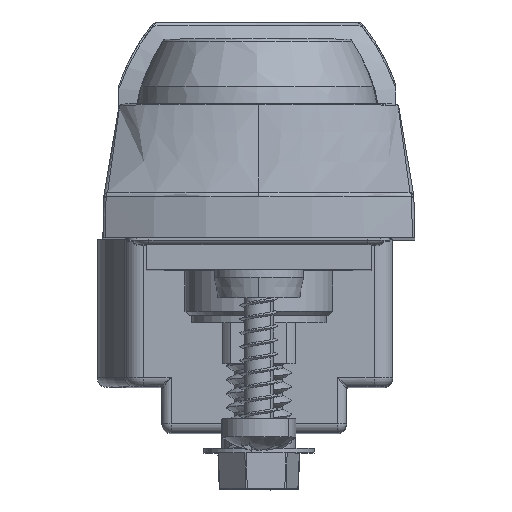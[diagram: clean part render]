
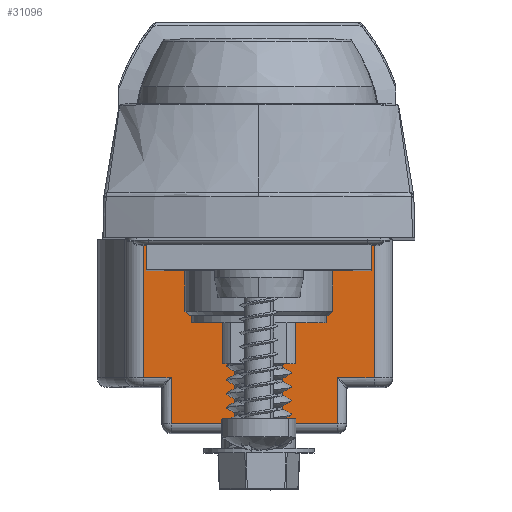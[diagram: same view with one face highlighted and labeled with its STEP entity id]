
A CAD part, top view. The second image highlights one B-rep face of the part: STEP entity #31096.
In plain terms, the highlighted planar face has unit normal (0, 0, 1) as drawn and (-1, 0, 0) by its records, which use the part's own axes.
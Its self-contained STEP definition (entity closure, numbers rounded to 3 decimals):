
#1618 = LINE ( 'NONE', #1668, #1667 ) ;
#1643 = CARTESIAN_POINT ( 'NONE',  ( -77.047, 24.46, 15. ) ) ;
#1666 = DIRECTION ( 'NONE',  ( 0., 0., -1. ) ) ;
#1667 = VECTOR ( 'NONE', #1666, 1000. ) ;
#1668 = CARTESIAN_POINT ( 'NONE',  ( -77.047, 24.46, 16. ) ) ;
#2045 = CARTESIAN_POINT ( 'NONE',  ( -77.047, 20.46, 15. ) ) ;
#2468 = FACE_OUTER_BOUND ( 'NONE', #31127, .T. ) ;
#2855 = CARTESIAN_POINT ( 'NONE',  ( -77.047, -0.54, 0. ) ) ;
#3182 = PLANE ( 'NONE',  #3193 ) ;
#3188 = CARTESIAN_POINT ( 'NONE',  ( -77.047, -0.54, 16. ) ) ;
#3191 = DIRECTION ( 'NONE',  ( 0., 0., -1. ) ) ;
#3192 = DIRECTION ( 'NONE',  ( 1., 0., 0. ) ) ;
#3193 = AXIS2_PLACEMENT_3D ( 'NONE', #3188, #3192, #3191 ) ;
#3239 = CARTESIAN_POINT ( 'NONE',  ( -77.047, 20.46, 20. ) ) ;
#5686 = EDGE_CURVE ( 'NONE', #21719, #27601, #9889, .T. ) ;
#5689 = ORIENTED_EDGE ( 'NONE', *, *, #5686, .F. ) ;
#6506 = VERTEX_POINT ( 'NONE', #11704 ) ;
#6538 = EDGE_CURVE ( 'NONE', #6506, #27601, #11784, .T. ) ;
#7861 = EDGE_CURVE ( 'NONE', #26282, #25908, #17030, .T. ) ;
#7862 = ORIENTED_EDGE ( 'NONE', *, *, #7861, .T. ) ;
#7871 = ORIENTED_EDGE ( 'NONE', *, *, #6538, .T. ) ;
#9248 = EDGE_CURVE ( 'NONE', #21818, #31128, #25005, .T. ) ;
#9501 = ORIENTED_EDGE ( 'NONE', *, *, #25842, .T. ) ;
#9886 = DIRECTION ( 'NONE',  ( 0., 0., -1. ) ) ;
#9887 = VECTOR ( 'NONE', #9886, 1000. ) ;
#9888 = CARTESIAN_POINT ( 'NONE',  ( -77.047, -0.54, 16. ) ) ;
#9889 = LINE ( 'NONE', #9888, #9887 ) ;
#11704 = CARTESIAN_POINT ( 'NONE',  ( -77.047, 24.46, 0. ) ) ;
#11781 = DIRECTION ( 'NONE',  ( 0., -1., 0. ) ) ;
#11782 = VECTOR ( 'NONE', #11781, 1000. ) ;
#11783 = CARTESIAN_POINT ( 'NONE',  ( -77.047, -0.54, 0. ) ) ;
#11784 = LINE ( 'NONE', #11783, #11782 ) ;
#17030 = LINE ( 'NONE', #17057, #17053 ) ;
#17052 = DIRECTION ( 'NONE',  ( 0., 1., 0. ) ) ;
#17053 = VECTOR ( 'NONE', #17052, 1000. ) ;
#17057 = CARTESIAN_POINT ( 'NONE',  ( -77.047, -0.54, 15. ) ) ;
#20945 = EDGE_CURVE ( 'NONE', #31128, #26282, #28669, .T. ) ;
#20952 = ORIENTED_EDGE ( 'NONE', *, *, #20945, .T. ) ;
#21664 = EDGE_CURVE ( 'NONE', #21719, #21718, #33910, .T. ) ;
#21718 = VERTEX_POINT ( 'NONE', #33977 ) ;
#21719 = VERTEX_POINT ( 'NONE', #34012 ) ;
#21722 = ORIENTED_EDGE ( 'NONE', *, *, #21664, .T. ) ;
#21729 = ORIENTED_EDGE ( 'NONE', *, *, #21856, .T. ) ;
#21818 = VERTEX_POINT ( 'NONE', #34279 ) ;
#21833 = ORIENTED_EDGE ( 'NONE', *, *, #9248, .T. ) ;
#21856 = EDGE_CURVE ( 'NONE', #21718, #21818, #34427, .T. ) ;
#24985 = DIRECTION ( 'NONE',  ( 0., 1., 0. ) ) ;
#24987 = VECTOR ( 'NONE', #24985, 1000. ) ;
#25004 = CARTESIAN_POINT ( 'NONE',  ( -77.047, -0.54, 20. ) ) ;
#25005 = LINE ( 'NONE', #25004, #24987 ) ;
#25842 = EDGE_CURVE ( 'NONE', #25908, #6506, #1618, .T. ) ;
#25908 = VERTEX_POINT ( 'NONE', #1643 ) ;
#26282 = VERTEX_POINT ( 'NONE', #2045 ) ;
#27601 = VERTEX_POINT ( 'NONE', #2855 ) ;
#28666 = DIRECTION ( 'NONE',  ( 0., 0., -1. ) ) ;
#28667 = VECTOR ( 'NONE', #28666, 1000. ) ;
#28668 = CARTESIAN_POINT ( 'NONE',  ( -77.047, 20.46, 16. ) ) ;
#28669 = LINE ( 'NONE', #28668, #28667 ) ;
#31096 = ADVANCED_FACE ( 'NONE', ( #2468 ), #3182, .F. ) ;
#31127 = EDGE_LOOP ( 'NONE', ( #20952, #7862, #9501, #7871, #5689, #21722, #21729, #21833 ) ) ;
#31128 = VERTEX_POINT ( 'NONE', #3239 ) ;
#33910 = LINE ( 'NONE', #33913, #33912 ) ;
#33911 = DIRECTION ( 'NONE',  ( 0., 1., 0. ) ) ;
#33912 = VECTOR ( 'NONE', #33911, 1000. ) ;
#33913 = CARTESIAN_POINT ( 'NONE',  ( -77.047, -0.54, 15. ) ) ;
#33977 = CARTESIAN_POINT ( 'NONE',  ( -77.047, 2.46, 15. ) ) ;
#34012 = CARTESIAN_POINT ( 'NONE',  ( -77.047, -0.54, 15. ) ) ;
#34279 = CARTESIAN_POINT ( 'NONE',  ( -77.047, 2.46, 20. ) ) ;
#34424 = DIRECTION ( 'NONE',  ( 0., 0., 1. ) ) ;
#34425 = VECTOR ( 'NONE', #34424, 1000. ) ;
#34426 = CARTESIAN_POINT ( 'NONE',  ( -77.047, 2.46, 16. ) ) ;
#34427 = LINE ( 'NONE', #34426, #34425 ) ;
